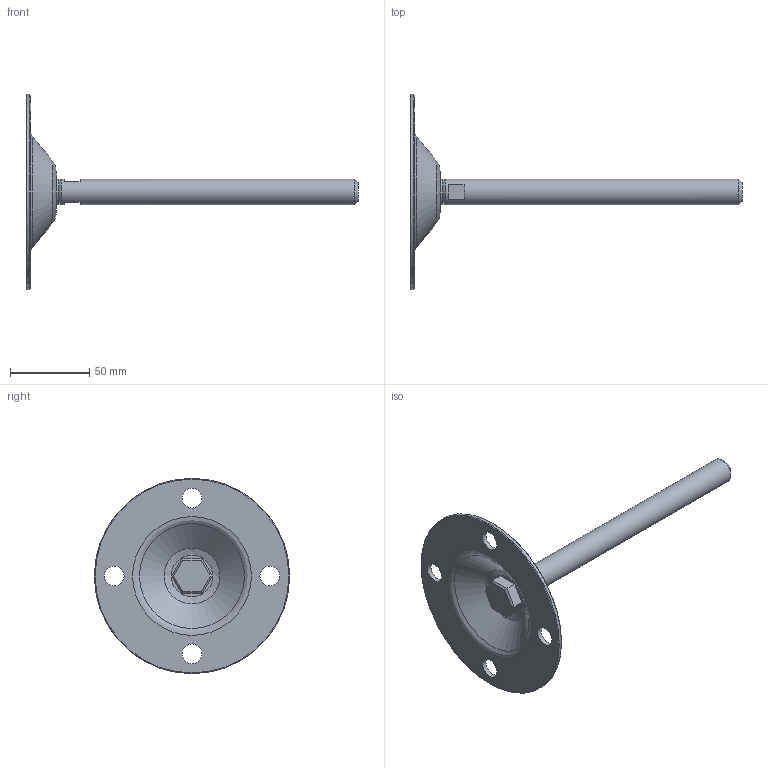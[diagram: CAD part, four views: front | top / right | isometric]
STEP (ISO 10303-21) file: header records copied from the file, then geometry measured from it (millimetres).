
FILE_DESCRIPTION(('STEP AP203'),'2;1');
FILE_NAME('15608Z.stp','2015-09-24T08:37:46',(''),(''),'2008.1.107','THINKDESIGN','');
FILE_SCHEMA(('CONFIG_CONTROL_DESIGN'));
Length unit declared in the file: millimetre
Bounding box: 209 x 123 x 123 mm (x, y, z)
Volume: 77400.4 mm3; surface area: 37447.6 mm2
Topology: 4 solids, 4 shells, 46 faces, 116 edges, 82 vertices
Faces by surface type: plane 22, bspline 16, cylinder 8
Full cylindrical faces by diameter (mm): 12.5 x4, 14 x1, 16 x2, 123 x1
Entity records: 2125 total; most frequent: CARTESIAN_POINT 881, DIRECTION 241, ORIENTED_EDGE 232, EDGE_CURVE 116, AXIS2_PLACEMENT_3D 95, VERTEX_POINT 82, CIRCLE 65, EDGE_LOOP 60
